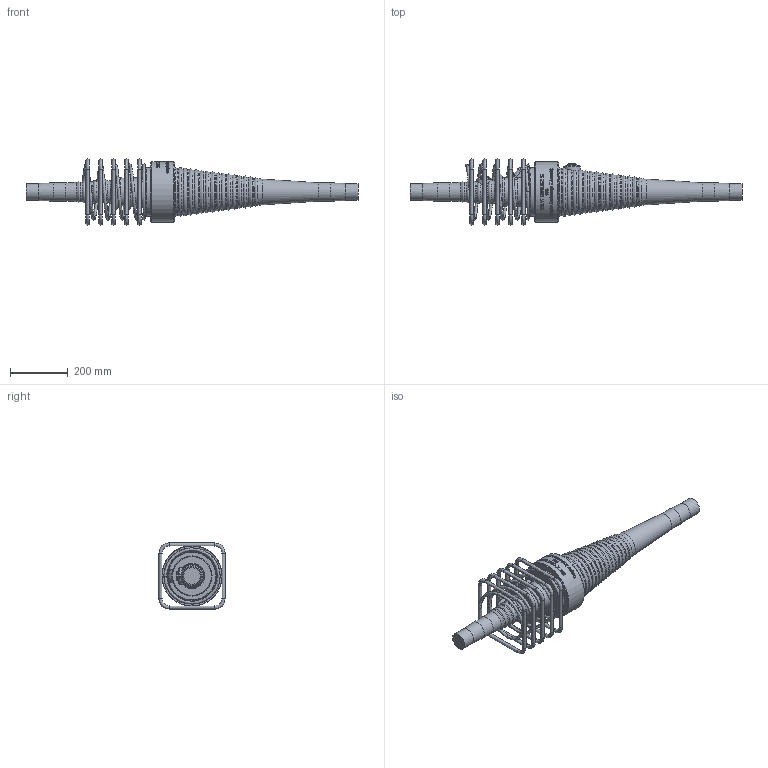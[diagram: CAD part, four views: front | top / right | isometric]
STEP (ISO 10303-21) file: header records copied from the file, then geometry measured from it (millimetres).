
FILE_DESCRIPTION(/* description */ (''),/* implementation_level */ '2;1');
FILE_NAME(/* name */ 'Z:\04 Publications\05 Give-out\BBR\6_3D_Models\BBR VT CONA CMI\BBR VT CONA CMI BT\00606\BBR VT CONA CMI BT 606_Couler K Assembly_CS-34,28.stp',/* time_stamp */ '2017-05-04T16:38:40+02:00',/* author */ ('IP'),/* organization */ (''),/* preprocessor_version */ 'ST-DEVELOPER v16.1',/* originating_system */ 'Autodesk Inventor 2016',/* authorisation */ '');
FILE_SCHEMA (('AUTOMOTIVE_DESIGN { 1 0 10303 214 3 1 1 }'));
Products named in the file (1): BBR VT CONA CMI BT 606_Couler K Assembly_CS-34,28
Bounding box: 1153 x 230 x 230 mm (x, y, z)
Volume: 11738301.9 mm3; surface area: 701133.5 mm2
Topology: 7 solids, 7 shells, 949 faces, 2407 edges, 1527 vertices
Faces by surface type: bspline 429, plane 254, torus 110, cylinder 107, cone 25, sphere 24
Full cylindrical faces by diameter (mm): 12 x20, 34 x2, 57 x2, 59 x2, 64 x2, 133.801 x1, 139.387 x1, 170 x1, 203 x1, 207 x1, 210 x1
Entity records: 40711 total; most frequent: CARTESIAN_POINT 20702, ORIENTED_EDGE 4498, DIRECTION 2974, EDGE_CURVE 2249, VERTEX_POINT 1516, EDGE_LOOP 1161, AXIS2_PLACEMENT_3D 1058, FACE_OUTER_BOUND 949
